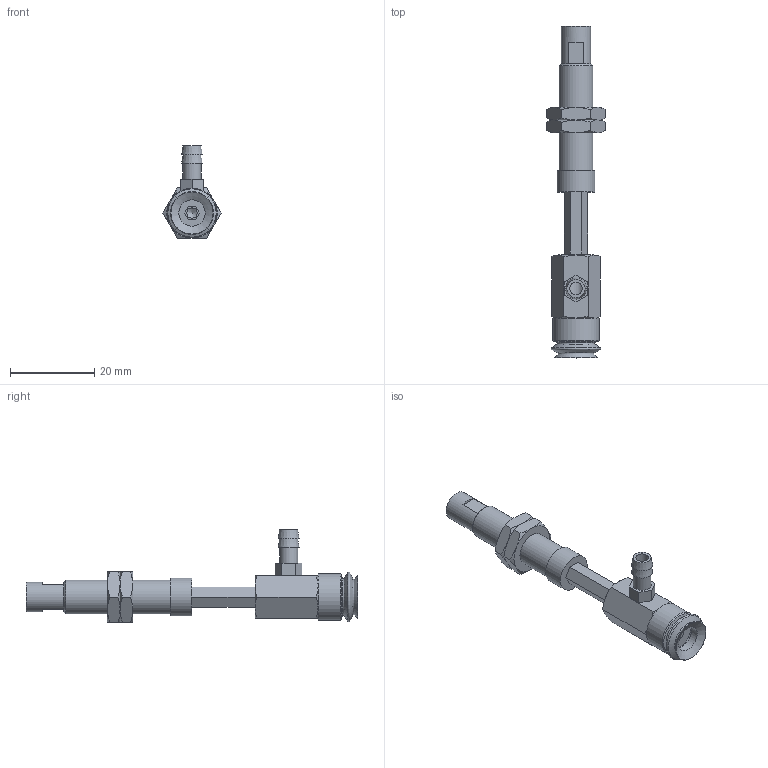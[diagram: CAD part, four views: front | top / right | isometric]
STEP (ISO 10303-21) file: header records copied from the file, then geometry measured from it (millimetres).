
FILE_DESCRIPTION(('STEP AP203'),'1');
FILE_NAME('-T.stp','2025-04-24T06:35:18',(' '),(' '),'Spatial InterOp 3D',' ',' ');
FILE_SCHEMA(('CONFIG_CONTROL_DESIGN'));
Length unit declared in the file: millimetre
Products named in the file (8): BNABPJYH-10-15-※-T; Adapter-10-NAPJ; CONNECTOR_H-10-15; NAPJH-10-15-NUT; NAPJTH-10-15-FBODY; NAPJTH-10-15-MBODY; BPJG-10-※; T
Assembly tree (8 placements, depth 2):
  BNABPJYH-10-15-※-T
    Adapter-10-NAPJ
    CONNECTOR_H-10-15
    NAPJH-10-15-NUT  x2
    NAPJTH-10-15-FBODY
    NAPJTH-10-15-MBODY
    BPJG-10-※
    T
Bounding box: 13.86 x 79 x 22 mm (x, y, z)
Volume: 4705.6 mm3; surface area: 5507.5 mm2
Topology: 8 solids, 8 shells, 167 faces, 362 edges, 223 vertices
Faces by surface type: plane 82, cone 59, cylinder 19, torus 7
Full cylindrical faces by diameter (mm): 2.5 x1, 3 x1, 4.134 x3, 4.3 x1, 4.6 x1, 5 x3, 6.266 x1, 7 x1, 7.188 x2, 7.8 x1, 8 x2, 9 x1, 11 x1
Entity records: 4382 total; most frequent: CARTESIAN_POINT 1082, DIRECTION 606, ORIENTED_EDGE 516, EDGE_CURVE 258, AXIS2_PLACEMENT_3D 247, EDGE_LOOP 212, VERTEX_POINT 185, FACE_OUTER_BOUND 169
